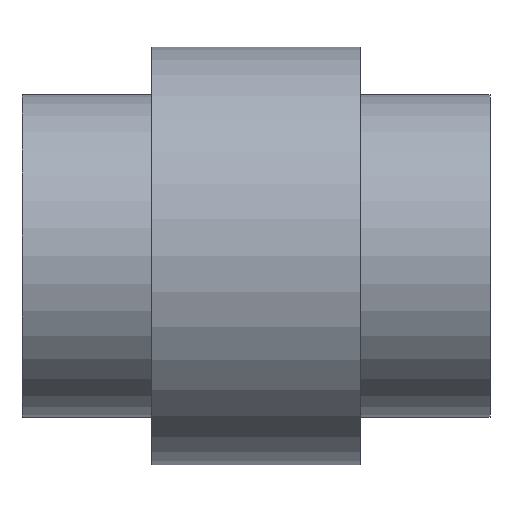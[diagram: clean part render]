
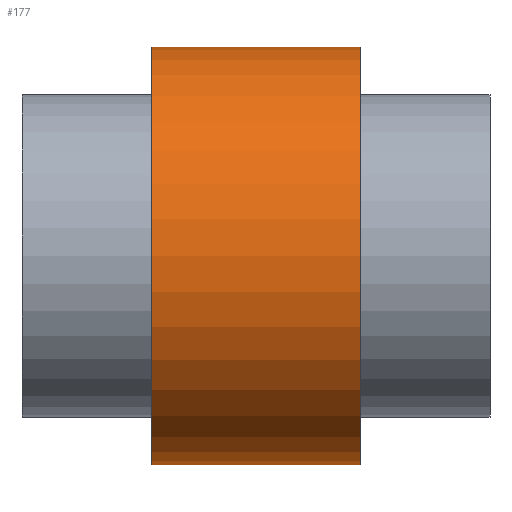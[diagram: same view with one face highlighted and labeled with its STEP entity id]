
A CAD part, top view. The second image highlights one B-rep face of the part: STEP entity #177.
In plain terms, the highlighted cylindrical face has radius 330 mm (diameter 660 mm), a partial arc.
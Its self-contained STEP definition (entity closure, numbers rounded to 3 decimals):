
#11=CARTESIAN_POINT('',(165.,0.,0.));
#12=DIRECTION('',(1.,0.,0.));
#13=DIRECTION('',(0.,1.,0.));
#14=AXIS2_PLACEMENT_3D('',#11,#12,#13);
#16=DIRECTION('',(-1.,0.,0.));
#17=VECTOR('',#16,330.);
#18=CARTESIAN_POINT('',(165.,330.,0.));
#19=LINE('',#18,#17);
#20=DIRECTION('',(-1.,0.,0.));
#21=VECTOR('',#20,330.);
#22=CARTESIAN_POINT('',(165.,-330.,0.));
#23=LINE('',#22,#21);
#34=CARTESIAN_POINT('',(-165.,0.,0.));
#35=DIRECTION('',(1.,0.,0.));
#36=DIRECTION('',(0.,1.,0.));
#37=AXIS2_PLACEMENT_3D('',#34,#35,#36);
#113=CARTESIAN_POINT('',(165.,330.,0.));
#114=CARTESIAN_POINT('',(-165.,330.,0.));
#115=VERTEX_POINT('',#113);
#116=VERTEX_POINT('',#114);
#117=CARTESIAN_POINT('',(165.,-330.,0.));
#118=CARTESIAN_POINT('',(-165.,-330.,0.));
#119=VERTEX_POINT('',#117);
#120=VERTEX_POINT('',#118);
#163=CARTESIAN_POINT('',(-407.,0.,0.));
#164=DIRECTION('',(1.,0.,0.));
#165=DIRECTION('',(0.,-1.,0.));
#166=AXIS2_PLACEMENT_3D('',#163,#164,#165);
#167=CYLINDRICAL_SURFACE('',#166,330.);
#169=ORIENTED_EDGE('',*,*,#168,.F.);
#170=ORIENTED_EDGE('',*,*,#150,.T.);
#172=ORIENTED_EDGE('',*,*,#171,.T.);
#174=ORIENTED_EDGE('',*,*,#173,.F.);
#175=EDGE_LOOP('',(#169,#170,#172,#174));
#176=FACE_OUTER_BOUND('',#175,.F.);
#177=ADVANCED_FACE('',(#176),#167,.T.);
#15=CIRCLE('',#14,330.);
#38=CIRCLE('',#37,330.);
#150=EDGE_CURVE('',#115,#119,#15,.T.);
#168=EDGE_CURVE('',#115,#116,#19,.T.);
#171=EDGE_CURVE('',#119,#120,#23,.T.);
#173=EDGE_CURVE('',#116,#120,#38,.T.);
